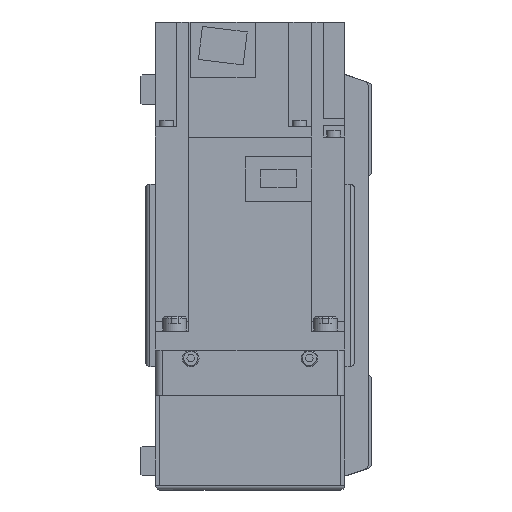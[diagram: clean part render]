
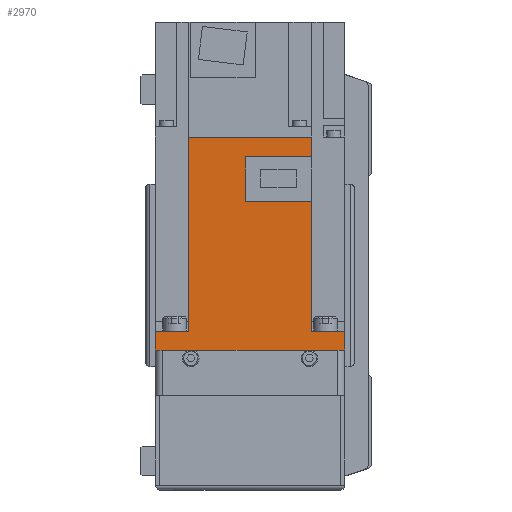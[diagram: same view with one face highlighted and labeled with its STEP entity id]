
A CAD part, left-side view. The second image highlights one B-rep face of the part: STEP entity #2970.
In plain terms, the highlighted planar face has unit normal (-1, 0, 0) as drawn and (1, 0, 0) by its records, which use the part's own axes.
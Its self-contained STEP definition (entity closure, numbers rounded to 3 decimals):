
#2970 = ADVANCED_FACE( '', ( #6125 ), #6126, .F. );
#6125 = FACE_OUTER_BOUND( '', #9309, .T. );
#6126 = PLANE( '', #9310 );
#9309 = EDGE_LOOP( '', ( #17736, #17737, #17738, #17739, #17740, #17741, #17742, #17743, #17744, #17745, #17746, #17747 ) );
#9310 = AXIS2_PLACEMENT_3D( '', #17748, #17749, #17750 );
#17736 = ORIENTED_EDGE( '', *, *, #21034, .F. );
#17737 = ORIENTED_EDGE( '', *, *, #21575, .F. );
#17738 = ORIENTED_EDGE( '', *, *, #20224, .F. );
#17739 = ORIENTED_EDGE( '', *, *, #19228, .T. );
#17740 = ORIENTED_EDGE( '', *, *, #18383, .F. );
#17741 = ORIENTED_EDGE( '', *, *, #19658, .T. );
#17742 = ORIENTED_EDGE( '', *, *, #18639, .T. );
#17743 = ORIENTED_EDGE( '', *, *, #21146, .F. );
#17744 = ORIENTED_EDGE( '', *, *, #21057, .F. );
#17745 = ORIENTED_EDGE( '', *, *, #21576, .F. );
#17746 = ORIENTED_EDGE( '', *, *, #20818, .F. );
#17747 = ORIENTED_EDGE( '', *, *, #21491, .F. );
#17748 = CARTESIAN_POINT( '', ( 40., 89.8, 40. ) );
#17749 = DIRECTION( '', ( -1., 0., 0. ) );
#17750 = DIRECTION( '', ( 0., 0., 1. ) );
#18383 = EDGE_CURVE( '', #21895, #21897, #21898, .T. );
#18639 = EDGE_CURVE( '', #22362, #22360, #22363, .T. );
#19228 = EDGE_CURVE( '', #23367, #21897, #23368, .T. );
#19658 = EDGE_CURVE( '', #21895, #22362, #24061, .T. );
#20224 = EDGE_CURVE( '', #23367, #24895, #24898, .T. );
#20818 = EDGE_CURVE( '', #25739, #25740, #25741, .T. );
#21034 = EDGE_CURVE( '', #26010, #26012, #26013, .T. );
#21057 = EDGE_CURVE( '', #26042, #26043, #26044, .T. );
#21146 = EDGE_CURVE( '', #26043, #22360, #26149, .T. );
#21491 = EDGE_CURVE( '', #26012, #25739, #26541, .T. );
#21575 = EDGE_CURVE( '', #24895, #26010, #26628, .T. );
#21576 = EDGE_CURVE( '', #25740, #26042, #26629, .T. );
#21895 = VERTEX_POINT( '', #27080 );
#21897 = VERTEX_POINT( '', #27083 );
#21898 = LINE( '', #27084, #27085 );
#22360 = VERTEX_POINT( '', #27734 );
#22362 = VERTEX_POINT( '', #27737 );
#22363 = LINE( '', #27738, #27739 );
#23367 = VERTEX_POINT( '', #29210 );
#23368 = LINE( '', #29211, #29212 );
#24061 = LINE( '', #30246, #30247 );
#24895 = VERTEX_POINT( '', #31556 );
#24898 = LINE( '', #31561, #31562 );
#25739 = VERTEX_POINT( '', #32728 );
#25740 = VERTEX_POINT( '', #32729 );
#25741 = LINE( '', #32730, #32731 );
#26010 = VERTEX_POINT( '', #33109 );
#26012 = VERTEX_POINT( '', #33112 );
#26013 = LINE( '', #33113, #33114 );
#26042 = VERTEX_POINT( '', #33153 );
#26043 = VERTEX_POINT( '', #33154 );
#26044 = LINE( '', #33155, #33156 );
#26149 = LINE( '', #33297, #33298 );
#26541 = LINE( '', #33822, #33823 );
#26628 = LINE( '', #33926, #33927 );
#26629 = LINE( '', #33928, #33929 );
#27080 = CARTESIAN_POINT( '', ( 40., 8., 40. ) );
#27083 = CARTESIAN_POINT( '', ( 40., 8., 25.95 ) );
#27084 = CARTESIAN_POINT( '', ( 40., 8., 40. ) );
#27085 = VECTOR( '', #34179, 1000. );
#27734 = CARTESIAN_POINT( '', ( 40., 0., -40. ) );
#27737 = CARTESIAN_POINT( '', ( 40., 0., 40. ) );
#27738 = CARTESIAN_POINT( '', ( 40., 0., 40. ) );
#27739 = VECTOR( '', #34570, 1000. );
#29210 = CARTESIAN_POINT( '', ( 40., 89.8, 25.95 ) );
#29211 = CARTESIAN_POINT( '', ( 40., 158., 25.95 ) );
#29212 = VECTOR( '', #35348, 1000. );
#30246 = CARTESIAN_POINT( '', ( 40., 89.8, 40. ) );
#30247 = VECTOR( '', #35904, 1000. );
#31556 = CARTESIAN_POINT( '', ( 40., 89.8, -25.95 ) );
#31561 = CARTESIAN_POINT( '', ( 40., 89.8, 40. ) );
#31562 = VECTOR( '', #36535, 1000. );
#32728 = CARTESIAN_POINT( '', ( 40., 62.8, 1.8 ) );
#32729 = CARTESIAN_POINT( '', ( 40., 62.8, -25.95 ) );
#32730 = CARTESIAN_POINT( '', ( 40., 62.8, 1.8 ) );
#32731 = VECTOR( '', #37248, 1000. );
#33109 = CARTESIAN_POINT( '', ( 40., 81.4, -25.95 ) );
#33112 = CARTESIAN_POINT( '', ( 40., 81.4, 1.8 ) );
#33113 = CARTESIAN_POINT( '', ( 40., 81.4, -26. ) );
#33114 = VECTOR( '', #37458, 1000. );
#33153 = CARTESIAN_POINT( '', ( 40., 8., -25.95 ) );
#33154 = CARTESIAN_POINT( '', ( 40., 8., -40. ) );
#33155 = CARTESIAN_POINT( '', ( 40., 8., 40. ) );
#33156 = VECTOR( '', #37478, 1000. );
#33297 = CARTESIAN_POINT( '', ( 40., 89.8, -40. ) );
#33298 = VECTOR( '', #37560, 1000. );
#33822 = CARTESIAN_POINT( '', ( 40., 81.4, 1.8 ) );
#33823 = VECTOR( '', #37843, 1000. );
#33926 = CARTESIAN_POINT( '', ( 40., 158., -25.95 ) );
#33927 = VECTOR( '', #37866, 1000. );
#33928 = CARTESIAN_POINT( '', ( 40., 158., -25.95 ) );
#33929 = VECTOR( '', #37867, 1000. );
#34179 = DIRECTION( '', ( 0., 0., -1. ) );
#34570 = DIRECTION( '', ( 0., 0., -1. ) );
#35348 = DIRECTION( '', ( 0., -1., 0. ) );
#35904 = DIRECTION( '', ( 0., -1., 0. ) );
#36535 = DIRECTION( '', ( 0., 0., -1. ) );
#37248 = DIRECTION( '', ( 0., 0., -1. ) );
#37458 = DIRECTION( '', ( 0., 0., 1. ) );
#37478 = DIRECTION( '', ( 0., 0., -1. ) );
#37560 = DIRECTION( '', ( 0., -1., 0. ) );
#37843 = DIRECTION( '', ( 0., -1., 0. ) );
#37866 = DIRECTION( '', ( 0., -1., 0. ) );
#37867 = DIRECTION( '', ( 0., -1., 0. ) );
